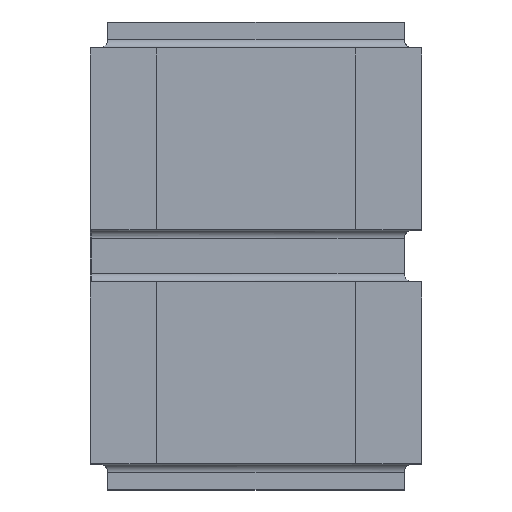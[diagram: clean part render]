
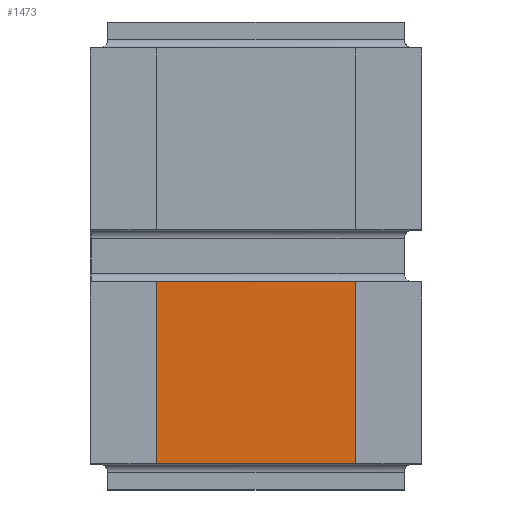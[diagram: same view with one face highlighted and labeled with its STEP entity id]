
A CAD part, top view. The second image highlights one B-rep face of the part: STEP entity #1473.
In plain terms, the highlighted planar face has unit normal (0, 0, 1).
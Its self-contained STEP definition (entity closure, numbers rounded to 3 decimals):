
#99=FACE_OUTER_BOUND('',#183,.T.);
#183=EDGE_LOOP('',(#1133,#1134,#1135,#1136));
#310=LINE('',#2243,#496);
#320=LINE('',#2266,#506);
#321=LINE('',#2267,#507);
#322=LINE('',#2268,#508);
#496=VECTOR('',#1821,10.);
#506=VECTOR('',#1841,10.);
#507=VECTOR('',#1842,10.);
#508=VECTOR('',#1843,10.);
#669=VERTEX_POINT('',#2240);
#670=VERTEX_POINT('',#2242);
#677=VERTEX_POINT('',#2264);
#678=VERTEX_POINT('',#2265);
#832=EDGE_CURVE('',#669,#670,#310,.T.);
#843=EDGE_CURVE('',#677,#678,#320,.T.);
#844=EDGE_CURVE('',#677,#670,#321,.T.);
#845=EDGE_CURVE('',#669,#678,#322,.T.);
#1133=ORIENTED_EDGE('',*,*,#843,.F.);
#1134=ORIENTED_EDGE('',*,*,#844,.T.);
#1135=ORIENTED_EDGE('',*,*,#832,.F.);
#1136=ORIENTED_EDGE('',*,*,#845,.T.);
#1398=PLANE('',#1595);
#1473=ADVANCED_FACE('',(#99),#1398,.T.);
#1595=AXIS2_PLACEMENT_3D('',#2263,#1839,#1840);
#1821=DIRECTION('',(1.,0.,0.));
#1839=DIRECTION('center_axis',(0.,0.,1.));
#1840=DIRECTION('ref_axis',(1.,0.,0.));
#1841=DIRECTION('',(-1.,0.,0.));
#1842=DIRECTION('',(0.,1.,0.));
#1843=DIRECTION('',(0.,-1.,0.));
#2240=CARTESIAN_POINT('',(0.005,1.2,0.495));
#2242=CARTESIAN_POINT('',(1.905,1.2,0.495));
#2243=CARTESIAN_POINT('',(0.005,1.2,0.495));
#2263=CARTESIAN_POINT('Origin',(0.955,0.15,0.495));
#2264=CARTESIAN_POINT('',(1.905,0.15,0.495));
#2265=CARTESIAN_POINT('',(0.005,0.15,0.495));
#2266=CARTESIAN_POINT('',(1.905,0.15,0.495));
#2267=CARTESIAN_POINT('',(1.905,0.15,0.495));
#2268=CARTESIAN_POINT('',(0.005,1.2,0.495));
